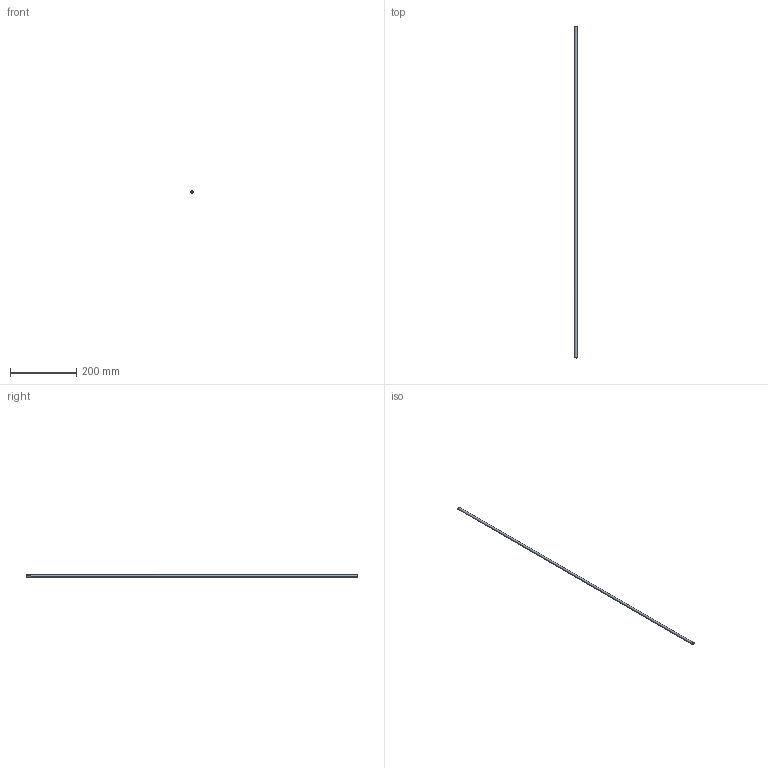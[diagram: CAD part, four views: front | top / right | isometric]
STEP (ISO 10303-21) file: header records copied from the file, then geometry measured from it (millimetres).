
FILE_DESCRIPTION(/* description */ (''),/* implementation_level */ '2;1');
FILE_NAME(/* name */ 'ZAVIT_~1',/* time_stamp */ '2016-08-25T07:22:15+02:00',/* author */ (''),/* organization */ (''),/* preprocessor_version */ 'ST-DEVELOPER v14',/* originating_system */ '',/* authorisation */ '');
FILE_SCHEMA (('CONFIG_CONTROL_DESIGN'));
Length unit declared in the file: millimetre
Products named in the file (1): Document
Bounding box: 7.59 x 1000 x 7.59 mm (x, y, z)
Volume: 45208.2 mm3; surface area: 23898.6 mm2
Topology: 1 solids, 1 shells, 8 faces, 15 edges, 10 vertices
Faces by surface type: bspline 6, plane 2
Entity records: 24382 total; most frequent: CARTESIAN_POINT 24186, ORIENTED_EDGE 28, EDGE_CURVE 14, B_SPLINE_CURVE_WITH_KNOTS 14, ADVANCED_FACE 8, FACE_OUTER_BOUND 8, EDGE_LOOP 8, VERTEX_POINT 8
